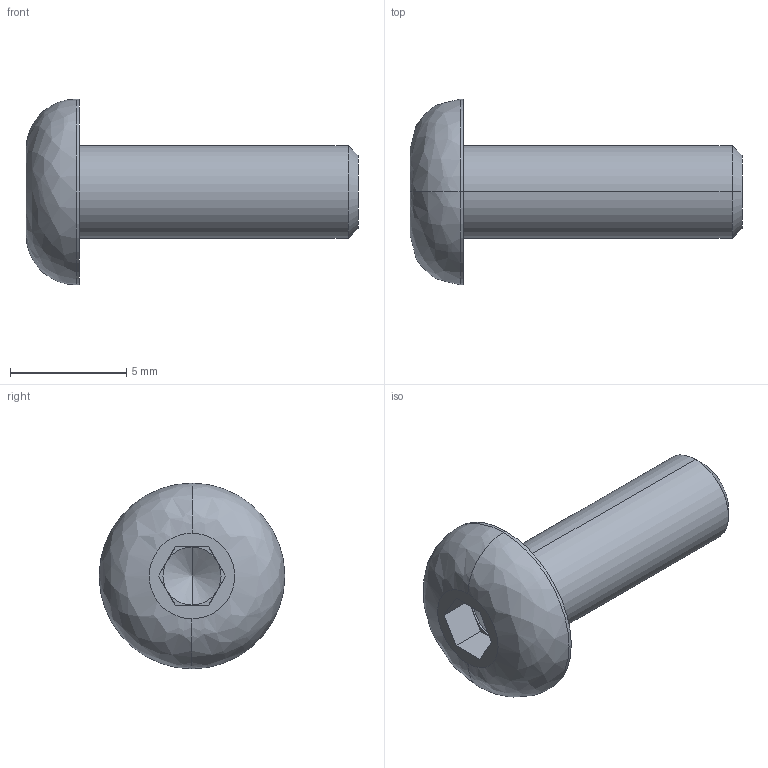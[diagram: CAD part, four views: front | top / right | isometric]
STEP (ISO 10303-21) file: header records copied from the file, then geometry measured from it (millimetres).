
FILE_DESCRIPTION (( 'STEP AP214' ), '1' );
FILE_NAME ('ISO7380_4x12.STEP', '2016-05-18T14:42:57', ( '' ), ( '' ), 'SwSTEP 2.0', 'SolidWorks 2014', '' );
FILE_SCHEMA (( 'AUTOMOTIVE_DESIGN' ));
Length unit declared in the file: millimetre
Products named in the file (1): ISO7380_4x12
Bounding box: 14.3 x 8 x 8 mm (x, y, z)
Volume: 233.5 mm3; surface area: 294.7 mm2
Topology: 1 solids, 1 shells, 27 faces, 59 edges, 34 vertices
Faces by surface type: plane 15, cylinder 6, cone 4, bspline 2
Entity records: 771 total; most frequent: CARTESIAN_POINT 158, DIRECTION 126, ORIENTED_EDGE 114, EDGE_CURVE 57, AXIS2_PLACEMENT_3D 46, VERTEX_POINT 34, LINE 34, VECTOR 34
